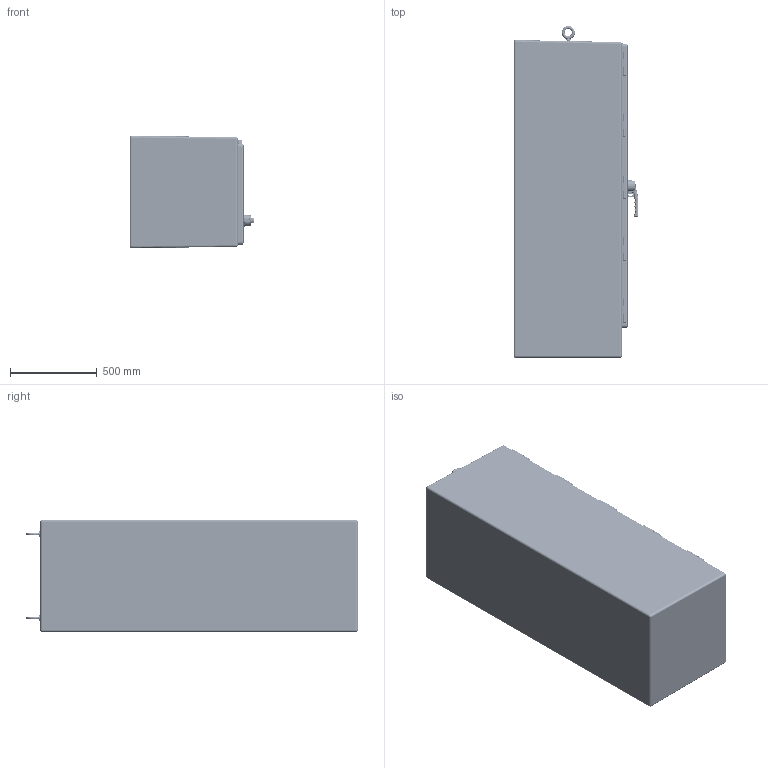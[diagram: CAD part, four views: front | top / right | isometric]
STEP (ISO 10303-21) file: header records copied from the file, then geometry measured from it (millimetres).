
FILE_DESCRIPTION (( 'STEP AP203' ), '1' );
FILE_NAME ('A722525FGFS3PT.STEP', '2013-04-05T20:58:31', ( 'User' ), ( 'Pentair Inc' ), 'SwSTEP 2.0', 'SolidWorks 2010', '' );
FILE_SCHEMA (( 'CONFIG_CONTROL_DESIGN' ));
Length unit declared in the file: inch
Products named in the file (54): A722525FGFS3PT; 89099828; 87574454; 89058176; 87546739; 87574452; 89058175; 99409156_99409156; 87781672; 89098015; 99401415_99401415; 23103001; 23103002; 23102001; 24990012; 87573197; 99411366_93825A140; 22101011; 87755662; 87543460; 89099929_FIP GASKET; 27301002; 87794223_87794223; 23104001; 89048879; 87928012_87928012; 99405807_SL-PHMS 0.19-32x0.375x0.375-N; 87567405_87567405; 87567417; 27155001; 87567421; 87566030; 87567410; 99401300_99401300; 35130001_SI-HHMS 0.25-28x0.375x0.375-N; 35124003_35124003; 87780590; 22101002; 99404572_99404572; 89048633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
Assembly tree (171 placements, depth 4):
  A722525FGFS3PT
    23104001  x10
      89048879
      87928012_87928012
    99405807_SL-PHMS 0.19-32x0.375x0.375-N  x20
    35130001_SI-HHMS 0.25-28x0.375x0.375-N  x2
    87780590
      22101002  x2
      30101003
      89048633
        89048632
        99415550_Config-Drawing
      99404572_99404572
    27115004  x2
    23103001  x5
      23103002
      23102001
      24990012
    99411366_93825A140  x10
    22101011  x10
    87755662
      27301002  x2
      87543460
      89099929_FIP GASKET
    87794223_87794223  x2
    99401300_99401300  x2
    26118002_26118002  x2
    35131001_35131001
    87755952_26274014
      30101003  x2
      22318002
      26273016_26273014
      27115001
    99401452  x2
    35124003_35124003
    22101014
    89099828
      87781672  x2
      87574454  x4
        99409156_99409156
        89058176
      87546739  x6
      99401415_99401415  x24
      87574452  x4
        99409156_99409156
        89058175
      89098015
    87573197  x2
    87567405_87567405
      27155001
      87567421
      87566030
      87567410
      87567417
    26274015_26274015
      26273015_26273015
      30101003  x2
      22318002
      27115001
Bounding box: 717.73 x 1911.06 x 645.93 mm (x, y, z)
Volume: 35625174.3 mm3; surface area: 15499029.5 mm2
Topology: 242 solids, 243 shells, 12824 faces, 33608 edges, 21461 vertices
Faces by surface type: plane 5598, cylinder 3635, cone 2359, bspline 680, torus 514, sphere 38
Entity records: 134478 total; most frequent: CARTESIAN_POINT 59786, ORIENTED_EDGE 14220, DIRECTION 13093, EDGE_CURVE 7110, AXIS2_PLACEMENT_3D 5116, VERTEX_POINT 4358, EDGE_LOOP 3250, ADVANCED_FACE 2891
